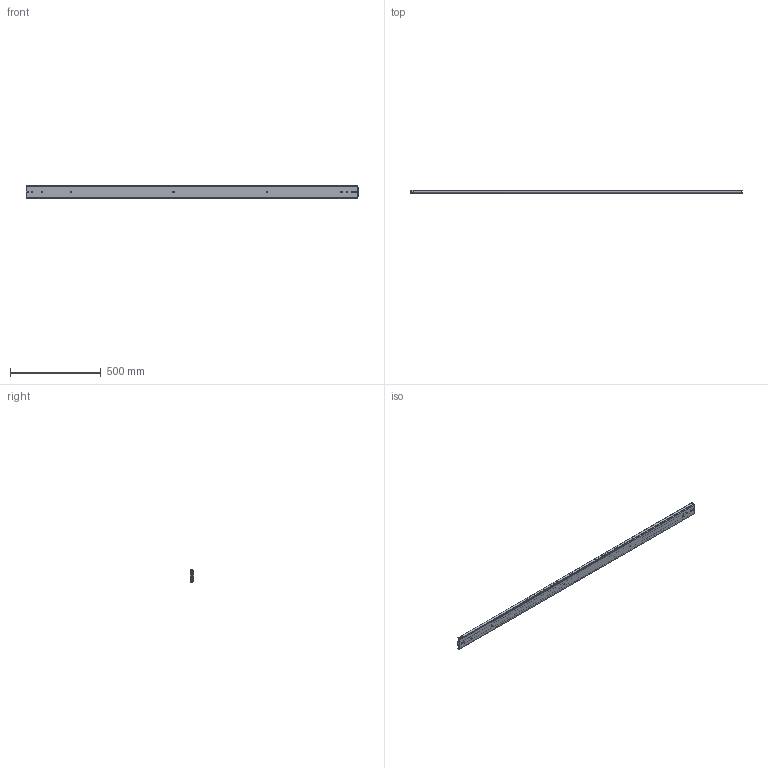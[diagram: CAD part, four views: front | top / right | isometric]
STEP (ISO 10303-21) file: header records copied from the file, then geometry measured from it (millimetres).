
FILE_DESCRIPTION((''),'2;1');
FILE_NAME('DG-76-02-72_ASM','2023-05-15T',('jishu015'),(''),'PRO/ENGINEER BY PARAMETRIC TECHNOLOGY CORPORATION, 2010280','PRO/ENGINEER BY PARAMETRIC TECHNOLOGY CORPORATION, 2010280','');
FILE_SCHEMA(('CONFIG_CONTROL_DESIGN'));
Products named in the file (18): KP-76-04WAIKE3; 1076-WAIKEZIDANJIAO3; WAIK72_ASM; 1076XIAOZHUTIAO1; 163; 1076XIAOZHUTIAO1_ASM; KP-76-04ZHONGGUI3; 76CHANGGUIZHONGGUIJIAO3; 3X6WODIN3; PJ-76-33; 76-XIAOZHUJIA3; GANGZHU-XIAO3; ZHUJIA-XIAO3_ASM; ZHONGGUI3_ASM; KP-76-04NEIGUI3; XIN-TANPIAN; NEIGUI3_ASM; DG-76-02-72_ASM
Assembly tree (122 placements, depth 4):
  DG-76-02-72_ASM
    WAIK72_ASM
      KP-76-04WAIKE3
      1076-WAIKEZIDANJIAO3  x2
    1076XIAOZHUTIAO1_ASM  x2
      1076XIAOZHUTIAO1
      163
    ZHONGGUI3_ASM
      KP-76-04ZHONGGUI3
      76CHANGGUIZHONGGUIJIAO3
      3X6WODIN3
      PJ-76-33
      ZHUJIA-XIAO3_ASM
        76-XIAOZHUJIA3
        GANGZHU-XIAO3  x70
    NEIGUI3_ASM
      KP-76-04NEIGUI3
      XIN-TANPIAN
Bounding box: 1828.8 x 19.5 x 75.3 mm (x, y, z)
Volume: 1201205 mm3; surface area: 1151899.2 mm2
Topology: 152 solids, 152 shells, 2976 faces, 9454 edges, 5915 vertices
Faces by surface type: plane 1607, cylinder 960, sphere 282, extrusion 105, cone 18, bspline 4
Entity records: 87760 total; most frequent: CARTESIAN_POINT 21028, ORIENTED_EDGE 14988, DIRECTION 12797, EDGE_CURVE 7494, VERTEX_POINT 4891, AXIS2_PLACEMENT_3D 4329, VECTOR 4139, LINE 4034
